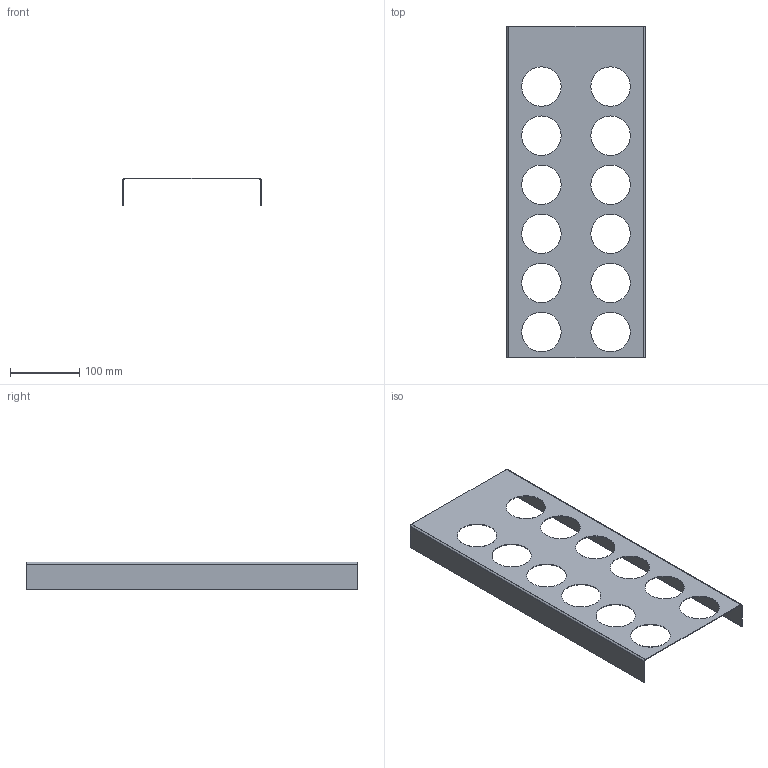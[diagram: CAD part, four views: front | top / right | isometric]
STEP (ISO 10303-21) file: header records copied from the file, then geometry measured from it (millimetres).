
FILE_DESCRIPTION (( 'STEP AP214' ), '1' );
FILE_NAME ('Gewuerzeinsatz_68320-01.STEP', '2010-10-25T13:46:20', ( 'grass' ), ( '' ), 'SwSTEP 2.0', 'SolidWorks 2010', '' );
FILE_SCHEMA (( 'AUTOMOTIVE_DESIGN' ));
Length unit declared in the file: millimetre
Products named in the file (1): Gewuerzeinsatz_68320-01
Bounding box: 200 x 479 x 40 mm (x, y, z)
Volume: 101513 mm3; surface area: 206684.5 mm2
Topology: 1 solids, 1 shells, 38 faces, 108 edges, 72 vertices
Faces by surface type: cylinder 28, plane 10
Entity records: 1350 total; most frequent: DIRECTION 242, CARTESIAN_POINT 219, ORIENTED_EDGE 216, EDGE_CURVE 108, AXIS2_PLACEMENT_3D 95, VERTEX_POINT 72, EDGE_LOOP 62, CIRCLE 56
